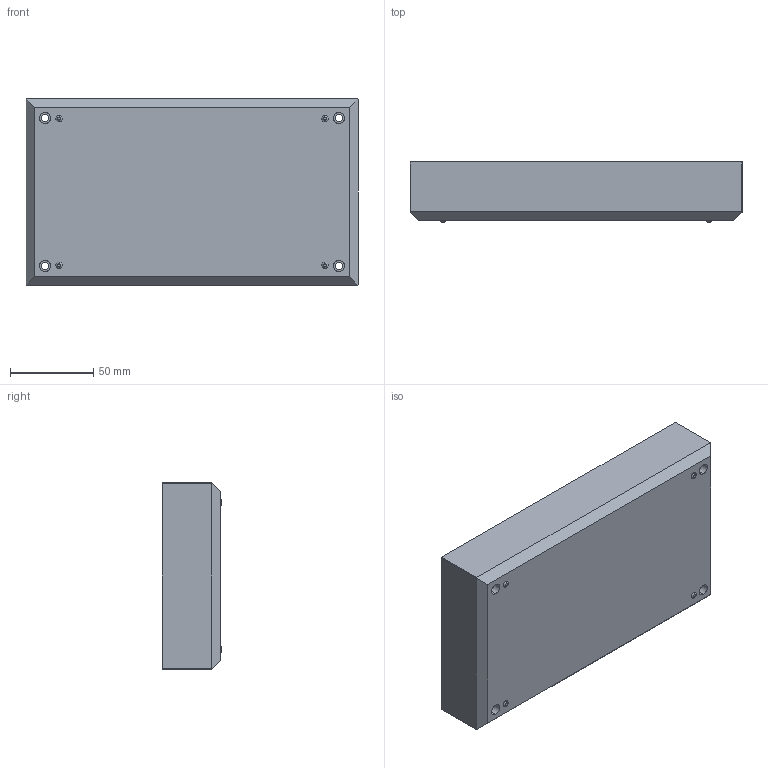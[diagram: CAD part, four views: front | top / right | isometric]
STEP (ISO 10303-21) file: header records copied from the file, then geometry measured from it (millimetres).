
FILE_DESCRIPTION (( 'STEP AP214' ), '1' );
FILE_NAME ('Cuerpo PP63B.STEP', '2017-01-23T03:53:27', ( 'aaa' ), ( '' ), 'SwSTEP 2.0', 'SolidWorks 2013', '' );
FILE_SCHEMA (( 'AUTOMOTIVE_DESIGN' ));
Length unit declared in the file: millimetre
Products named in the file (1): Cuerpo PP63B
Bounding box: 200 x 36 x 112.2 mm (x, y, z)
Volume: 147593.2 mm3; surface area: 92769.9 mm2
Topology: 1 solids, 1 shells, 131 faces, 284 edges, 188 vertices
Faces by surface type: cylinder 64, plane 59, torus 8
Entity records: 3684 total; most frequent: DIRECTION 688, CARTESIAN_POINT 628, ORIENTED_EDGE 568, EDGE_CURVE 284, AXIS2_PLACEMENT_3D 280, VERTEX_POINT 188, EDGE_LOOP 172, CIRCLE 148
